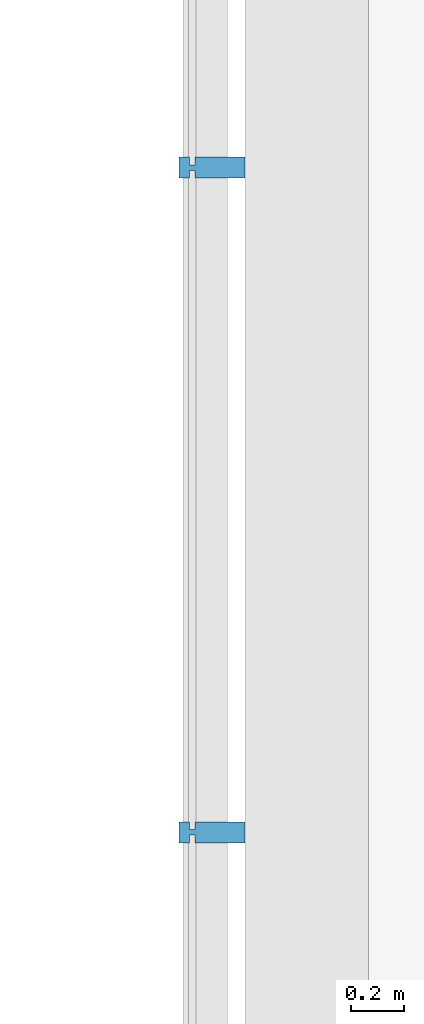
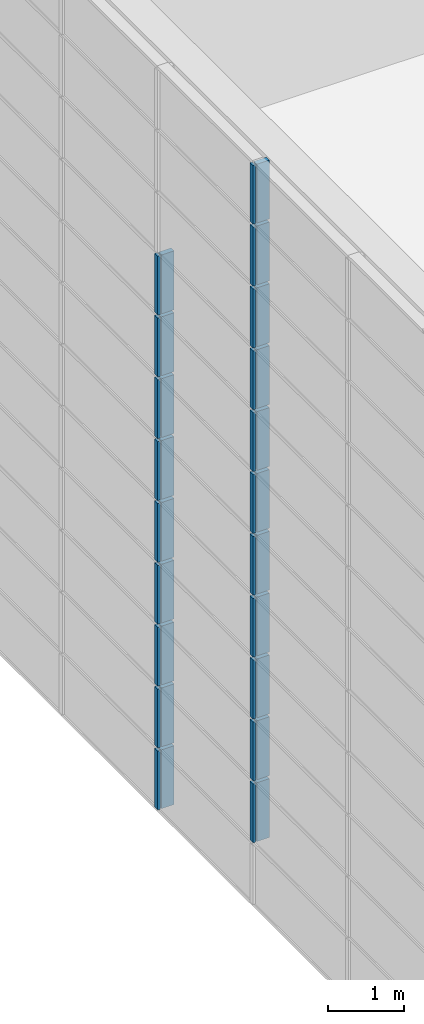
# One storey, part 82 of 105: 20 building element parts, 4 elements without a shape of their own.
"""IFC4 building model written with IfcOpenShell, lengths in millimetres."""

from ifc_helpers import new_model, entity, si_unit, converted_unit, derived_unit, direction, frame, origin_with_axes, place, context, subcontext, project, spatial, triangles, material, element, aggregate, save


model = new_model("IFC4")

# Units and contexts
model_context = context("Model", 3, precision=1e-05, world=origin_with_axes(), true_north=direction((0.0, 1.0)))
body_context = subcontext(model_context, "Body", "Model", "MODEL_VIEW")
ifc_project = project(units=[si_unit("LENGTHUNIT", "METRE", prefix="MILLI"), si_unit("AREAUNIT", "SQUARE_METRE"), si_unit("VOLUMEUNIT", "CUBIC_METRE"), converted_unit("PLANEANGLEUNIT", "DEGREE", entity("IfcLengthMeasure", 0.017453), si_unit("PLANEANGLEUNIT", "RADIAN"), dimensions=[0, 0, 0, 0, 0, 0, 0]), si_unit("SOLIDANGLEUNIT", "STERADIAN"), si_unit("MASSUNIT", "GRAM"), si_unit("TIMEUNIT", "SECOND"), si_unit("THERMODYNAMICTEMPERATUREUNIT", "DEGREE_CELSIUS"), si_unit("LUMINOUSINTENSITYUNIT", "LUMEN"), si_unit("POWERUNIT", "WATT"), derived_unit("THERMALTRANSMITTANCEUNIT", [(si_unit("POWERUNIT", "WATT"), 1), (si_unit("THERMODYNAMICTEMPERATUREUNIT", "KELVIN"), -1), (si_unit("AREAUNIT", "SQUARE_METRE"), -1)])], contexts=[model_context])

# Site, building, storey
site_placement = place(None, origin_with_axes())
site = spatial("IfcSite", under=ifc_project, at=site_placement, Name="Default Site", CompositionType="ELEMENT")
building_placement = place(site_placement, origin_with_axes())
building = spatial("IfcBuilding", under=site, at=building_placement, Name="Default Building", CompositionType="ELEMENT")
storey_placement = place(building_placement, origin_with_axes())
storey = spatial("IfcBuildingStorey", under=building, at=storey_placement, Name="OG - Story", CompositionType="ELEMENT", Elevation=0.0)

# Curtain wall, building element parts
curtain_wall_1_placement = place(storey_placement, origin_with_axes())
curtain_wall_1 = element("IfcCurtainWall", 1, at=curtain_wall_1_placement, inside=storey, Name="Fassade-003", PredefinedType="NOTDEFINED")
ifc_material = material(Name="Blech")
building_element_part_1_placement = place(curtain_wall_1_placement, frame((31551.391327, -51326.104944, 0.0), z_axis=(0.0, 0.0, 1.0), x_axis=(1.0, 0.0, 0.0)))
building_element_part_1 = element("IfcBuildingElementPart", 2, at=building_element_part_1_placement, material=ifc_material, Name="Blech", PredefinedType="NOTDEFINED", context=body_context, shape_type="Tessellation", body=[
    triangles([(200.0, 36591.579, 975.0), (10.0, 36591.579, 975.0), (200.0, 36671.579, 975.0), (10.0, 36621.579, 975.0), (10.0, 36641.579, 975.0), (-9.999, 36621.579, 975.0), (-9.999, 36641.579, 975.0), (-9.999, 36671.579, 975.0), (-9.999, 36591.579, 975.0), (-49.999, 36591.579, 975.0), (-49.999, 36671.579, 975.0), (10.0, 36671.579, 975.0), (10.0, 36641.579, 25.0), (-9.999, 36641.579, 25.0), (-9.999, 36671.579, 25.0), (-49.999, 36671.579, 25.0), (-49.999, 36591.579, 25.0), (-9.999, 36591.579, 25.0), (-9.999, 36621.579, 25.0), (10.0, 36621.579, 25.0), (10.0, 36591.579, 25.0), (200.0, 36591.579, 25.0), (200.0, 36671.579, 25.0), (10.0, 36671.579, 25.0)], [[1, 2, 3], [3, 2, 4], [3, 4, 5], [5, 4, 6], [5, 6, 7], [8, 9, 10], [8, 10, 11], [3, 5, 12], [5, 13, 14], [5, 14, 7], [7, 14, 15], [7, 15, 8], [15, 16, 11], [15, 11, 8], [10, 11, 16], [10, 16, 17], [18, 9, 10], [18, 10, 17], [9, 18, 19], [9, 19, 6], [4, 6, 19], [4, 19, 20], [2, 4, 20], [2, 20, 21], [2, 21, 22], [2, 22, 1], [3, 1, 22], [3, 22, 23], [12, 3, 23], [12, 23, 24], [12, 24, 13], [12, 13, 5], [23, 24, 22], [22, 24, 13], [22, 13, 20], [20, 13, 14], [20, 14, 19], [18, 15, 16], [18, 16, 17], [22, 20, 21]], closed=False),
])
building_element_part_2_placement = place(curtain_wall_1_placement, frame((31551.391327, -51326.104944, 0.0), z_axis=(0.0, 0.0, 1.0), x_axis=(1.0, 0.0, 0.0)))
building_element_part_2 = element("IfcBuildingElementPart", 3, at=building_element_part_2_placement, material=ifc_material, Name="Blech", PredefinedType="NOTDEFINED", context=body_context, shape_type="Tessellation", body=[
    triangles([(200.0, 34065.263, 1975.0), (10.0, 34065.263, 1975.0), (200.0, 34145.263, 1975.0), (10.0, 34095.263, 1975.0), (10.0, 34115.263, 1975.0), (-9.999, 34095.263, 1975.0), (-9.999, 34115.263, 1975.0), (-9.999, 34145.263, 1975.0), (-9.999, 34065.263, 1975.0), (-49.999, 34065.263, 1975.0), (-49.999, 34145.263, 1975.0), (10.0, 34145.263, 1975.0), (10.0, 34115.263, 1025.0), (-9.999, 34115.263, 1025.0), (-9.999, 34145.263, 1025.0), (-49.999, 34145.263, 1025.0), (-49.999, 34065.263, 1025.0), (-9.999, 34065.263, 1025.0), (-9.999, 34095.263, 1025.0), (10.0, 34095.263, 1025.0), (10.0, 34065.263, 1025.0), (200.0, 34065.263, 1025.0), (200.0, 34145.263, 1025.0), (10.0, 34145.263, 1025.0)], [[1, 2, 3], [3, 2, 4], [3, 4, 5], [5, 4, 6], [5, 6, 7], [8, 9, 10], [8, 10, 11], [3, 5, 12], [5, 13, 14], [5, 14, 7], [7, 14, 15], [7, 15, 8], [15, 16, 11], [15, 11, 8], [10, 11, 16], [10, 16, 17], [18, 9, 10], [18, 10, 17], [9, 18, 19], [9, 19, 6], [4, 6, 19], [4, 19, 20], [2, 4, 20], [2, 20, 21], [2, 21, 22], [2, 22, 1], [3, 1, 22], [3, 22, 23], [12, 3, 23], [12, 23, 24], [12, 24, 13], [12, 13, 5], [23, 24, 22], [22, 24, 13], [22, 13, 20], [20, 13, 14], [20, 14, 19], [18, 15, 16], [18, 16, 17], [22, 20, 21]], closed=False),
])
building_element_part_3_placement = place(curtain_wall_1_placement, frame((31551.391327, -51326.104944, 0.0), z_axis=(0.0, 0.0, 1.0), x_axis=(1.0, 0.0, 0.0)))
building_element_part_3 = element("IfcBuildingElementPart", 4, at=building_element_part_3_placement, material=ifc_material, Name="Blech", PredefinedType="NOTDEFINED", context=body_context, shape_type="Tessellation", body=[
    triangles([(200.0, 36591.579, 1975.0), (10.0, 36591.579, 1975.0), (200.0, 36671.579, 1975.0), (10.0, 36621.579, 1975.0), (10.0, 36641.579, 1975.0), (-9.999, 36621.579, 1975.0), (-9.999, 36641.579, 1975.0), (-9.999, 36671.579, 1975.0), (-9.999, 36591.579, 1975.0), (-49.999, 36591.579, 1975.0), (-49.999, 36671.579, 1975.0), (10.0, 36671.579, 1975.0), (10.0, 36641.579, 1025.0), (-9.999, 36641.579, 1025.0), (-9.999, 36671.579, 1025.0), (-49.999, 36671.579, 1025.0), (-49.999, 36591.579, 1025.0), (-9.999, 36591.579, 1025.0), (-9.999, 36621.579, 1025.0), (10.0, 36621.579, 1025.0), (10.0, 36591.579, 1025.0), (200.0, 36591.579, 1025.0), (200.0, 36671.579, 1025.0), (10.0, 36671.579, 1025.0)], [[1, 2, 3], [3, 2, 4], [3, 4, 5], [5, 4, 6], [5, 6, 7], [8, 9, 10], [8, 10, 11], [3, 5, 12], [5, 13, 14], [5, 14, 7], [7, 14, 15], [7, 15, 8], [15, 16, 11], [15, 11, 8], [10, 11, 16], [10, 16, 17], [18, 9, 10], [18, 10, 17], [9, 18, 19], [9, 19, 6], [4, 6, 19], [4, 19, 20], [2, 4, 20], [2, 20, 21], [2, 21, 22], [2, 22, 1], [3, 1, 22], [3, 22, 23], [12, 3, 23], [12, 23, 24], [12, 24, 13], [12, 13, 5], [23, 24, 22], [22, 24, 13], [22, 13, 20], [20, 13, 14], [20, 14, 19], [18, 15, 16], [18, 16, 17], [22, 20, 21]], closed=False),
])
building_element_part_4_placement = place(curtain_wall_1_placement, frame((31551.391327, -51326.104944, 0.0), z_axis=(0.0, 0.0, 1.0), x_axis=(1.0, 0.0, 0.0)))
building_element_part_4 = element("IfcBuildingElementPart", 5, at=building_element_part_4_placement, material=ifc_material, Name="Blech", PredefinedType="NOTDEFINED", context=body_context, shape_type="Tessellation", body=[
    triangles([(200.0, 34065.263, 2975.0), (10.0, 34065.263, 2975.0), (200.0, 34145.263, 2975.0), (10.0, 34095.263, 2975.0), (10.0, 34115.263, 2975.0), (-9.999, 34095.263, 2975.0), (-9.999, 34115.263, 2975.0), (-9.999, 34145.263, 2975.0), (-9.999, 34065.263, 2975.0), (-49.999, 34065.263, 2975.0), (-49.999, 34145.263, 2975.0), (10.0, 34145.263, 2975.0), (10.0, 34115.263, 2025.0), (-9.999, 34115.263, 2025.0), (-9.999, 34145.263, 2025.0), (-49.999, 34145.263, 2025.0), (-49.999, 34065.263, 2025.0), (-9.999, 34065.263, 2025.0), (-9.999, 34095.263, 2025.0), (10.0, 34095.263, 2025.0), (10.0, 34065.263, 2025.0), (200.0, 34065.263, 2025.0), (200.0, 34145.263, 2025.0), (10.0, 34145.263, 2025.0)], [[1, 2, 3], [3, 2, 4], [3, 4, 5], [5, 4, 6], [5, 6, 7], [8, 9, 10], [8, 10, 11], [3, 5, 12], [5, 13, 14], [5, 14, 7], [7, 14, 15], [7, 15, 8], [15, 16, 11], [15, 11, 8], [10, 11, 16], [10, 16, 17], [18, 9, 10], [18, 10, 17], [9, 18, 19], [9, 19, 6], [4, 6, 19], [4, 19, 20], [2, 4, 20], [2, 20, 21], [2, 21, 22], [2, 22, 1], [3, 1, 22], [3, 22, 23], [12, 3, 23], [12, 23, 24], [12, 24, 13], [12, 13, 5], [23, 24, 22], [22, 24, 13], [22, 13, 20], [20, 13, 14], [20, 14, 19], [18, 15, 16], [18, 16, 17], [22, 20, 21]], closed=False),
])
building_element_part_5_placement = place(curtain_wall_1_placement, frame((31551.391327, -51326.104944, 0.0), z_axis=(0.0, 0.0, 1.0), x_axis=(1.0, 0.0, 0.0)))
building_element_part_5 = element("IfcBuildingElementPart", 6, at=building_element_part_5_placement, material=ifc_material, Name="Blech", PredefinedType="NOTDEFINED", context=body_context, shape_type="Tessellation", body=[
    triangles([(200.0, 36591.579, 2975.0), (10.0, 36591.579, 2975.0), (200.0, 36671.579, 2975.0), (10.0, 36621.579, 2975.0), (10.0, 36641.579, 2975.0), (-9.999, 36621.579, 2975.0), (-9.999, 36641.579, 2975.0), (-9.999, 36671.579, 2975.0), (-9.999, 36591.579, 2975.0), (-49.999, 36591.579, 2975.0), (-49.999, 36671.579, 2975.0), (10.0, 36671.579, 2975.0), (10.0, 36641.579, 2025.0), (-9.999, 36641.579, 2025.0), (-9.999, 36671.579, 2025.0), (-49.999, 36671.579, 2025.0), (-49.999, 36591.579, 2025.0), (-9.999, 36591.579, 2025.0), (-9.999, 36621.579, 2025.0), (10.0, 36621.579, 2025.0), (10.0, 36591.579, 2025.0), (200.0, 36591.579, 2025.0), (200.0, 36671.579, 2025.0), (10.0, 36671.579, 2025.0)], [[1, 2, 3], [3, 2, 4], [3, 4, 5], [5, 4, 6], [5, 6, 7], [8, 9, 10], [8, 10, 11], [3, 5, 12], [5, 13, 14], [5, 14, 7], [7, 14, 15], [7, 15, 8], [15, 16, 11], [15, 11, 8], [10, 11, 16], [10, 16, 17], [18, 9, 10], [18, 10, 17], [9, 18, 19], [9, 19, 6], [4, 6, 19], [4, 19, 20], [2, 4, 20], [2, 20, 21], [2, 21, 22], [2, 22, 1], [3, 1, 22], [3, 22, 23], [12, 3, 23], [12, 23, 24], [12, 24, 13], [12, 13, 5], [23, 24, 22], [22, 24, 13], [22, 13, 20], [20, 13, 14], [20, 14, 19], [18, 15, 16], [18, 16, 17], [22, 20, 21]], closed=False),
])
aggregate(curtain_wall_1, [building_element_part_1, building_element_part_2, building_element_part_3, building_element_part_4, building_element_part_5])

curtain_wall_2_placement = place(storey_placement, origin_with_axes())
curtain_wall_2 = element("IfcCurtainWall", 7, at=curtain_wall_2_placement, inside=storey, Name="Fassade-003", PredefinedType="NOTDEFINED")
building_element_part_6_placement = place(curtain_wall_2_placement, frame((31551.391327, -51326.104944, 3000.0), z_axis=(0.0, 0.0, 1.0), x_axis=(1.0, 0.0, 0.0)))
building_element_part_6 = element("IfcBuildingElementPart", 8, at=building_element_part_6_placement, material=ifc_material, Name="Blech", PredefinedType="NOTDEFINED", context=body_context, shape_type="Tessellation", body=[
    triangles([(200.0, 34065.263, 975.0), (10.0, 34065.263, 975.0), (200.0, 34145.263, 975.0), (10.0, 34095.263, 975.0), (10.0, 34115.263, 975.0), (-9.999, 34095.263, 975.0), (-9.999, 34115.263, 975.0), (-9.999, 34145.263, 975.0), (-9.999, 34065.263, 975.0), (-49.999, 34065.263, 975.0), (-49.999, 34145.263, 975.0), (10.0, 34145.263, 975.0), (10.0, 34115.263, 25.0), (-9.999, 34115.263, 25.0), (-9.999, 34145.263, 25.0), (-49.999, 34145.263, 25.0), (-49.999, 34065.263, 25.0), (-9.999, 34065.263, 25.0), (-9.999, 34095.263, 25.0), (10.0, 34095.263, 25.0), (10.0, 34065.263, 25.0), (200.0, 34065.263, 25.0), (200.0, 34145.263, 25.0), (10.0, 34145.263, 25.0)], [[1, 2, 3], [3, 2, 4], [3, 4, 5], [5, 4, 6], [5, 6, 7], [8, 9, 10], [8, 10, 11], [3, 5, 12], [5, 13, 14], [5, 14, 7], [7, 14, 15], [7, 15, 8], [15, 16, 11], [15, 11, 8], [10, 11, 16], [10, 16, 17], [18, 9, 10], [18, 10, 17], [9, 18, 19], [9, 19, 6], [4, 6, 19], [4, 19, 20], [2, 4, 20], [2, 20, 21], [2, 21, 22], [2, 22, 1], [3, 1, 22], [3, 22, 23], [12, 3, 23], [12, 23, 24], [12, 24, 13], [12, 13, 5], [23, 24, 22], [22, 24, 13], [22, 13, 20], [20, 13, 14], [20, 14, 19], [18, 15, 16], [18, 16, 17], [22, 20, 21]], closed=False),
])
building_element_part_7_placement = place(curtain_wall_2_placement, frame((31551.391327, -51326.104944, 3000.0), z_axis=(0.0, 0.0, 1.0), x_axis=(1.0, 0.0, 0.0)))
building_element_part_7 = element("IfcBuildingElementPart", 9, at=building_element_part_7_placement, material=ifc_material, Name="Blech", PredefinedType="NOTDEFINED", context=body_context, shape_type="Tessellation", body=[
    triangles([(200.0, 36591.579, 975.0), (10.0, 36591.579, 975.0), (200.0, 36671.579, 975.0), (10.0, 36621.579, 975.0), (10.0, 36641.579, 975.0), (-9.999, 36621.579, 975.0), (-9.999, 36641.579, 975.0), (-9.999, 36671.579, 975.0), (-9.999, 36591.579, 975.0), (-49.999, 36591.579, 975.0), (-49.999, 36671.579, 975.0), (10.0, 36671.579, 975.0), (10.0, 36641.579, 25.0), (-9.999, 36641.579, 25.0), (-9.999, 36671.579, 25.0), (-49.999, 36671.579, 25.0), (-49.999, 36591.579, 25.0), (-9.999, 36591.579, 25.0), (-9.999, 36621.579, 25.0), (10.0, 36621.579, 25.0), (10.0, 36591.579, 25.0), (200.0, 36591.579, 25.0), (200.0, 36671.579, 25.0), (10.0, 36671.579, 25.0)], [[1, 2, 3], [3, 2, 4], [3, 4, 5], [5, 4, 6], [5, 6, 7], [8, 9, 10], [8, 10, 11], [3, 5, 12], [5, 13, 14], [5, 14, 7], [7, 14, 15], [7, 15, 8], [15, 16, 11], [15, 11, 8], [10, 11, 16], [10, 16, 17], [18, 9, 10], [18, 10, 17], [9, 18, 19], [9, 19, 6], [4, 6, 19], [4, 19, 20], [2, 4, 20], [2, 20, 21], [2, 21, 22], [2, 22, 1], [3, 1, 22], [3, 22, 23], [12, 3, 23], [12, 23, 24], [12, 24, 13], [12, 13, 5], [23, 24, 22], [22, 24, 13], [22, 13, 20], [20, 13, 14], [20, 14, 19], [18, 15, 16], [18, 16, 17], [22, 20, 21]], closed=False),
])
building_element_part_8_placement = place(curtain_wall_2_placement, frame((31551.391327, -51326.104944, 3000.0), z_axis=(0.0, 0.0, 1.0), x_axis=(1.0, 0.0, 0.0)))
building_element_part_8 = element("IfcBuildingElementPart", 10, at=building_element_part_8_placement, material=ifc_material, Name="Blech", PredefinedType="NOTDEFINED", context=body_context, shape_type="Tessellation", body=[
    triangles([(200.0, 34065.263, 1975.0), (10.0, 34065.263, 1975.0), (200.0, 34145.263, 1975.0), (10.0, 34095.263, 1975.0), (10.0, 34115.263, 1975.0), (-9.999, 34095.263, 1975.0), (-9.999, 34115.263, 1975.0), (-9.999, 34145.263, 1975.0), (-9.999, 34065.263, 1975.0), (-49.999, 34065.263, 1975.0), (-49.999, 34145.263, 1975.0), (10.0, 34145.263, 1975.0), (10.0, 34115.263, 1025.0), (-9.999, 34115.263, 1025.0), (-9.999, 34145.263, 1025.0), (-49.999, 34145.263, 1025.0), (-49.999, 34065.263, 1025.0), (-9.999, 34065.263, 1025.0), (-9.999, 34095.263, 1025.0), (10.0, 34095.263, 1025.0), (10.0, 34065.263, 1025.0), (200.0, 34065.263, 1025.0), (200.0, 34145.263, 1025.0), (10.0, 34145.263, 1025.0)], [[1, 2, 3], [3, 2, 4], [3, 4, 5], [5, 4, 6], [5, 6, 7], [8, 9, 10], [8, 10, 11], [3, 5, 12], [5, 13, 14], [5, 14, 7], [7, 14, 15], [7, 15, 8], [15, 16, 11], [15, 11, 8], [10, 11, 16], [10, 16, 17], [18, 9, 10], [18, 10, 17], [9, 18, 19], [9, 19, 6], [4, 6, 19], [4, 19, 20], [2, 4, 20], [2, 20, 21], [2, 21, 22], [2, 22, 1], [3, 1, 22], [3, 22, 23], [12, 3, 23], [12, 23, 24], [12, 24, 13], [12, 13, 5], [23, 24, 22], [22, 24, 13], [22, 13, 20], [20, 13, 14], [20, 14, 19], [18, 15, 16], [18, 16, 17], [22, 20, 21]], closed=False),
])
building_element_part_9_placement = place(curtain_wall_2_placement, frame((31551.391327, -51326.104944, 3000.0), z_axis=(0.0, 0.0, 1.0), x_axis=(1.0, 0.0, 0.0)))
building_element_part_9 = element("IfcBuildingElementPart", 11, at=building_element_part_9_placement, material=ifc_material, Name="Blech", PredefinedType="NOTDEFINED", context=body_context, shape_type="Tessellation", body=[
    triangles([(200.0, 36591.579, 1975.0), (10.0, 36591.579, 1975.0), (200.0, 36671.579, 1975.0), (10.0, 36621.579, 1975.0), (10.0, 36641.579, 1975.0), (-9.999, 36621.579, 1975.0), (-9.999, 36641.579, 1975.0), (-9.999, 36671.579, 1975.0), (-9.999, 36591.579, 1975.0), (-49.999, 36591.579, 1975.0), (-49.999, 36671.579, 1975.0), (10.0, 36671.579, 1975.0), (10.0, 36641.579, 1025.0), (-9.999, 36641.579, 1025.0), (-9.999, 36671.579, 1025.0), (-49.999, 36671.579, 1025.0), (-49.999, 36591.579, 1025.0), (-9.999, 36591.579, 1025.0), (-9.999, 36621.579, 1025.0), (10.0, 36621.579, 1025.0), (10.0, 36591.579, 1025.0), (200.0, 36591.579, 1025.0), (200.0, 36671.579, 1025.0), (10.0, 36671.579, 1025.0)], [[1, 2, 3], [3, 2, 4], [3, 4, 5], [5, 4, 6], [5, 6, 7], [8, 9, 10], [8, 10, 11], [3, 5, 12], [5, 13, 14], [5, 14, 7], [7, 14, 15], [7, 15, 8], [15, 16, 11], [15, 11, 8], [10, 11, 16], [10, 16, 17], [18, 9, 10], [18, 10, 17], [9, 18, 19], [9, 19, 6], [4, 6, 19], [4, 19, 20], [2, 4, 20], [2, 20, 21], [2, 21, 22], [2, 22, 1], [3, 1, 22], [3, 22, 23], [12, 3, 23], [12, 23, 24], [12, 24, 13], [12, 13, 5], [23, 24, 22], [22, 24, 13], [22, 13, 20], [20, 13, 14], [20, 14, 19], [18, 15, 16], [18, 16, 17], [22, 20, 21]], closed=False),
])
building_element_part_10_placement = place(curtain_wall_2_placement, frame((31551.391327, -51326.104944, 3000.0), z_axis=(0.0, 0.0, 1.0), x_axis=(1.0, 0.0, 0.0)))
building_element_part_10 = element("IfcBuildingElementPart", 12, at=building_element_part_10_placement, material=ifc_material, Name="Blech", PredefinedType="NOTDEFINED", context=body_context, shape_type="Tessellation", body=[
    triangles([(200.0, 34065.263, 2975.0), (10.0, 34065.263, 2975.0), (200.0, 34145.263, 2975.0), (10.0, 34095.263, 2975.0), (10.0, 34115.263, 2975.0), (-9.999, 34095.263, 2975.0), (-9.999, 34115.263, 2975.0), (-9.999, 34145.263, 2975.0), (-9.999, 34065.263, 2975.0), (-49.999, 34065.263, 2975.0), (-49.999, 34145.263, 2975.0), (10.0, 34145.263, 2975.0), (10.0, 34115.263, 2025.0), (-9.999, 34115.263, 2025.0), (-9.999, 34145.263, 2025.0), (-49.999, 34145.263, 2025.0), (-49.999, 34065.263, 2025.0), (-9.999, 34065.263, 2025.0), (-9.999, 34095.263, 2025.0), (10.0, 34095.263, 2025.0), (10.0, 34065.263, 2025.0), (200.0, 34065.263, 2025.0), (200.0, 34145.263, 2025.0), (10.0, 34145.263, 2025.0)], [[1, 2, 3], [3, 2, 4], [3, 4, 5], [5, 4, 6], [5, 6, 7], [8, 9, 10], [8, 10, 11], [3, 5, 12], [5, 13, 14], [5, 14, 7], [7, 14, 15], [7, 15, 8], [15, 16, 11], [15, 11, 8], [10, 11, 16], [10, 16, 17], [18, 9, 10], [18, 10, 17], [9, 18, 19], [9, 19, 6], [4, 6, 19], [4, 19, 20], [2, 4, 20], [2, 20, 21], [2, 21, 22], [2, 22, 1], [3, 1, 22], [3, 22, 23], [12, 3, 23], [12, 23, 24], [12, 24, 13], [12, 13, 5], [23, 24, 22], [22, 24, 13], [22, 13, 20], [20, 13, 14], [20, 14, 19], [18, 15, 16], [18, 16, 17], [22, 20, 21]], closed=False),
])
building_element_part_11_placement = place(curtain_wall_2_placement, frame((31551.391327, -51326.104944, 3000.0), z_axis=(0.0, 0.0, 1.0), x_axis=(1.0, 0.0, 0.0)))
building_element_part_11 = element("IfcBuildingElementPart", 13, at=building_element_part_11_placement, material=ifc_material, Name="Blech", PredefinedType="NOTDEFINED", context=body_context, shape_type="Tessellation", body=[
    triangles([(200.0, 36591.579, 2975.0), (10.0, 36591.579, 2975.0), (200.0, 36671.579, 2975.0), (10.0, 36621.579, 2975.0), (10.0, 36641.579, 2975.0), (-9.999, 36621.579, 2975.0), (-9.999, 36641.579, 2975.0), (-9.999, 36671.579, 2975.0), (-9.999, 36591.579, 2975.0), (-49.999, 36591.579, 2975.0), (-49.999, 36671.579, 2975.0), (10.0, 36671.579, 2975.0), (10.0, 36641.579, 2025.0), (-9.999, 36641.579, 2025.0), (-9.999, 36671.579, 2025.0), (-49.999, 36671.579, 2025.0), (-49.999, 36591.579, 2025.0), (-9.999, 36591.579, 2025.0), (-9.999, 36621.579, 2025.0), (10.0, 36621.579, 2025.0), (10.0, 36591.579, 2025.0), (200.0, 36591.579, 2025.0), (200.0, 36671.579, 2025.0), (10.0, 36671.579, 2025.0)], [[1, 2, 3], [3, 2, 4], [3, 4, 5], [5, 4, 6], [5, 6, 7], [8, 9, 10], [8, 10, 11], [3, 5, 12], [5, 13, 14], [5, 14, 7], [7, 14, 15], [7, 15, 8], [15, 16, 11], [15, 11, 8], [10, 11, 16], [10, 16, 17], [18, 9, 10], [18, 10, 17], [9, 18, 19], [9, 19, 6], [4, 6, 19], [4, 19, 20], [2, 4, 20], [2, 20, 21], [2, 21, 22], [2, 22, 1], [3, 1, 22], [3, 22, 23], [12, 3, 23], [12, 23, 24], [12, 24, 13], [12, 13, 5], [23, 24, 22], [22, 24, 13], [22, 13, 20], [20, 13, 14], [20, 14, 19], [18, 15, 16], [18, 16, 17], [22, 20, 21]], closed=False),
])
aggregate(curtain_wall_2, [building_element_part_6, building_element_part_7, building_element_part_8, building_element_part_9, building_element_part_10, building_element_part_11])

curtain_wall_3_placement = place(storey_placement, origin_with_axes())
curtain_wall_3 = element("IfcCurtainWall", 14, at=curtain_wall_3_placement, inside=storey, Name="Fassade-003", PredefinedType="NOTDEFINED")
building_element_part_12_placement = place(curtain_wall_3_placement, frame((31551.391327, -51326.104944, 6000.0), z_axis=(0.0, 0.0, 1.0), x_axis=(1.0, 0.0, 0.0)))
building_element_part_12 = element("IfcBuildingElementPart", 15, at=building_element_part_12_placement, material=ifc_material, Name="Blech", PredefinedType="NOTDEFINED", context=body_context, shape_type="Tessellation", body=[
    triangles([(200.0, 34065.263, 975.0), (10.0, 34065.263, 975.0), (200.0, 34145.263, 975.0), (10.0, 34095.263, 975.0), (10.0, 34115.263, 975.0), (-9.999, 34095.263, 975.0), (-9.999, 34115.263, 975.0), (-9.999, 34145.263, 975.0), (-9.999, 34065.263, 975.0), (-49.999, 34065.263, 975.0), (-49.999, 34145.263, 975.0), (10.0, 34145.263, 975.0), (10.0, 34115.263, 25.0), (-9.999, 34115.263, 25.0), (-9.999, 34145.263, 25.0), (-49.999, 34145.263, 25.0), (-49.999, 34065.263, 25.0), (-9.999, 34065.263, 25.0), (-9.999, 34095.263, 25.0), (10.0, 34095.263, 25.0), (10.0, 34065.263, 25.0), (200.0, 34065.263, 25.0), (200.0, 34145.263, 25.0), (10.0, 34145.263, 25.0)], [[1, 2, 3], [3, 2, 4], [3, 4, 5], [5, 4, 6], [5, 6, 7], [8, 9, 10], [8, 10, 11], [3, 5, 12], [5, 13, 14], [5, 14, 7], [7, 14, 15], [7, 15, 8], [15, 16, 11], [15, 11, 8], [10, 11, 16], [10, 16, 17], [18, 9, 10], [18, 10, 17], [9, 18, 19], [9, 19, 6], [4, 6, 19], [4, 19, 20], [2, 4, 20], [2, 20, 21], [2, 21, 22], [2, 22, 1], [3, 1, 22], [3, 22, 23], [12, 3, 23], [12, 23, 24], [12, 24, 13], [12, 13, 5], [23, 24, 22], [22, 24, 13], [22, 13, 20], [20, 13, 14], [20, 14, 19], [18, 15, 16], [18, 16, 17], [22, 20, 21]], closed=False),
])
building_element_part_13_placement = place(curtain_wall_3_placement, frame((31551.391327, -51326.104944, 6000.0), z_axis=(0.0, 0.0, 1.0), x_axis=(1.0, 0.0, 0.0)))
building_element_part_13 = element("IfcBuildingElementPart", 16, at=building_element_part_13_placement, material=ifc_material, Name="Blech", PredefinedType="NOTDEFINED", context=body_context, shape_type="Tessellation", body=[
    triangles([(200.0, 36591.579, 975.0), (10.0, 36591.579, 975.0), (200.0, 36671.579, 975.0), (10.0, 36621.579, 975.0), (10.0, 36641.579, 975.0), (-9.999, 36621.579, 975.0), (-9.999, 36641.579, 975.0), (-9.999, 36671.579, 975.0), (-9.999, 36591.579, 975.0), (-49.999, 36591.579, 975.0), (-49.999, 36671.579, 975.0), (10.0, 36671.579, 975.0), (10.0, 36641.579, 25.0), (-9.999, 36641.579, 25.0), (-9.999, 36671.579, 25.0), (-49.999, 36671.579, 25.0), (-49.999, 36591.579, 25.0), (-9.999, 36591.579, 25.0), (-9.999, 36621.579, 25.0), (10.0, 36621.579, 25.0), (10.0, 36591.579, 25.0), (200.0, 36591.579, 25.0), (200.0, 36671.579, 25.0), (10.0, 36671.579, 25.0)], [[1, 2, 3], [3, 2, 4], [3, 4, 5], [5, 4, 6], [5, 6, 7], [8, 9, 10], [8, 10, 11], [3, 5, 12], [5, 13, 14], [5, 14, 7], [7, 14, 15], [7, 15, 8], [15, 16, 11], [15, 11, 8], [10, 11, 16], [10, 16, 17], [18, 9, 10], [18, 10, 17], [9, 18, 19], [9, 19, 6], [4, 6, 19], [4, 19, 20], [2, 4, 20], [2, 20, 21], [2, 21, 22], [2, 22, 1], [3, 1, 22], [3, 22, 23], [12, 3, 23], [12, 23, 24], [12, 24, 13], [12, 13, 5], [23, 24, 22], [22, 24, 13], [22, 13, 20], [20, 13, 14], [20, 14, 19], [18, 15, 16], [18, 16, 17], [22, 20, 21]], closed=False),
])
building_element_part_14_placement = place(curtain_wall_3_placement, frame((31551.391327, -51326.104944, 6000.0), z_axis=(0.0, 0.0, 1.0), x_axis=(1.0, 0.0, 0.0)))
building_element_part_14 = element("IfcBuildingElementPart", 17, at=building_element_part_14_placement, material=ifc_material, Name="Blech", PredefinedType="NOTDEFINED", context=body_context, shape_type="Tessellation", body=[
    triangles([(200.0, 34065.263, 1975.0), (10.0, 34065.263, 1975.0), (200.0, 34145.263, 1975.0), (10.0, 34095.263, 1975.0), (10.0, 34115.263, 1975.0), (-9.999, 34095.263, 1975.0), (-9.999, 34115.263, 1975.0), (-9.999, 34145.263, 1975.0), (-9.999, 34065.263, 1975.0), (-49.999, 34065.263, 1975.0), (-49.999, 34145.263, 1975.0), (10.0, 34145.263, 1975.0), (10.0, 34115.263, 1025.0), (-9.999, 34115.263, 1025.0), (-9.999, 34145.263, 1025.0), (-49.999, 34145.263, 1025.0), (-49.999, 34065.263, 1025.0), (-9.999, 34065.263, 1025.0), (-9.999, 34095.263, 1025.0), (10.0, 34095.263, 1025.0), (10.0, 34065.263, 1025.0), (200.0, 34065.263, 1025.0), (200.0, 34145.263, 1025.0), (10.0, 34145.263, 1025.0)], [[1, 2, 3], [3, 2, 4], [3, 4, 5], [5, 4, 6], [5, 6, 7], [8, 9, 10], [8, 10, 11], [3, 5, 12], [5, 13, 14], [5, 14, 7], [7, 14, 15], [7, 15, 8], [15, 16, 11], [15, 11, 8], [10, 11, 16], [10, 16, 17], [18, 9, 10], [18, 10, 17], [9, 18, 19], [9, 19, 6], [4, 6, 19], [4, 19, 20], [2, 4, 20], [2, 20, 21], [2, 21, 22], [2, 22, 1], [3, 1, 22], [3, 22, 23], [12, 3, 23], [12, 23, 24], [12, 24, 13], [12, 13, 5], [23, 24, 22], [22, 24, 13], [22, 13, 20], [20, 13, 14], [20, 14, 19], [18, 15, 16], [18, 16, 17], [22, 20, 21]], closed=False),
])
building_element_part_15_placement = place(curtain_wall_3_placement, frame((31551.391327, -51326.104944, 6000.0), z_axis=(0.0, 0.0, 1.0), x_axis=(1.0, 0.0, 0.0)))
building_element_part_15 = element("IfcBuildingElementPart", 18, at=building_element_part_15_placement, material=ifc_material, Name="Blech", PredefinedType="NOTDEFINED", context=body_context, shape_type="Tessellation", body=[
    triangles([(200.0, 36591.579, 1975.0), (10.0, 36591.579, 1975.0), (200.0, 36671.579, 1975.0), (10.0, 36621.579, 1975.0), (10.0, 36641.579, 1975.0), (-9.999, 36621.579, 1975.0), (-9.999, 36641.579, 1975.0), (-9.999, 36671.579, 1975.0), (-9.999, 36591.579, 1975.0), (-49.999, 36591.579, 1975.0), (-49.999, 36671.579, 1975.0), (10.0, 36671.579, 1975.0), (10.0, 36641.579, 1025.0), (-9.999, 36641.579, 1025.0), (-9.999, 36671.579, 1025.0), (-49.999, 36671.579, 1025.0), (-49.999, 36591.579, 1025.0), (-9.999, 36591.579, 1025.0), (-9.999, 36621.579, 1025.0), (10.0, 36621.579, 1025.0), (10.0, 36591.579, 1025.0), (200.0, 36591.579, 1025.0), (200.0, 36671.579, 1025.0), (10.0, 36671.579, 1025.0)], [[1, 2, 3], [3, 2, 4], [3, 4, 5], [5, 4, 6], [5, 6, 7], [8, 9, 10], [8, 10, 11], [3, 5, 12], [5, 13, 14], [5, 14, 7], [7, 14, 15], [7, 15, 8], [15, 16, 11], [15, 11, 8], [10, 11, 16], [10, 16, 17], [18, 9, 10], [18, 10, 17], [9, 18, 19], [9, 19, 6], [4, 6, 19], [4, 19, 20], [2, 4, 20], [2, 20, 21], [2, 21, 22], [2, 22, 1], [3, 1, 22], [3, 22, 23], [12, 3, 23], [12, 23, 24], [12, 24, 13], [12, 13, 5], [23, 24, 22], [22, 24, 13], [22, 13, 20], [20, 13, 14], [20, 14, 19], [18, 15, 16], [18, 16, 17], [22, 20, 21]], closed=False),
])
building_element_part_16_placement = place(curtain_wall_3_placement, frame((31551.391327, -51326.104944, 6000.0), z_axis=(0.0, 0.0, 1.0), x_axis=(1.0, 0.0, 0.0)))
building_element_part_16 = element("IfcBuildingElementPart", 19, at=building_element_part_16_placement, material=ifc_material, Name="Blech", PredefinedType="NOTDEFINED", context=body_context, shape_type="Tessellation", body=[
    triangles([(200.0, 34065.263, 2975.0), (10.0, 34065.263, 2975.0), (200.0, 34145.263, 2975.0), (10.0, 34095.263, 2975.0), (10.0, 34115.263, 2975.0), (-9.999, 34095.263, 2975.0), (-9.999, 34115.263, 2975.0), (-9.999, 34145.263, 2975.0), (-9.999, 34065.263, 2975.0), (-49.999, 34065.263, 2975.0), (-49.999, 34145.263, 2975.0), (10.0, 34145.263, 2975.0), (10.0, 34115.263, 2025.0), (-9.999, 34115.263, 2025.0), (-9.999, 34145.263, 2025.0), (-49.999, 34145.263, 2025.0), (-49.999, 34065.263, 2025.0), (-9.999, 34065.263, 2025.0), (-9.999, 34095.263, 2025.0), (10.0, 34095.263, 2025.0), (10.0, 34065.263, 2025.0), (200.0, 34065.263, 2025.0), (200.0, 34145.263, 2025.0), (10.0, 34145.263, 2025.0)], [[1, 2, 3], [3, 2, 4], [3, 4, 5], [5, 4, 6], [5, 6, 7], [8, 9, 10], [8, 10, 11], [3, 5, 12], [5, 13, 14], [5, 14, 7], [7, 14, 15], [7, 15, 8], [15, 16, 11], [15, 11, 8], [10, 11, 16], [10, 16, 17], [18, 9, 10], [18, 10, 17], [9, 18, 19], [9, 19, 6], [4, 6, 19], [4, 19, 20], [2, 4, 20], [2, 20, 21], [2, 21, 22], [2, 22, 1], [3, 1, 22], [3, 22, 23], [12, 3, 23], [12, 23, 24], [12, 24, 13], [12, 13, 5], [23, 24, 22], [22, 24, 13], [22, 13, 20], [20, 13, 14], [20, 14, 19], [18, 15, 16], [18, 16, 17], [22, 20, 21]], closed=False),
])
building_element_part_17_placement = place(curtain_wall_3_placement, frame((31551.391327, -51326.104944, 6000.0), z_axis=(0.0, 0.0, 1.0), x_axis=(1.0, 0.0, 0.0)))
building_element_part_17 = element("IfcBuildingElementPart", 20, at=building_element_part_17_placement, material=ifc_material, Name="Blech", PredefinedType="NOTDEFINED", context=body_context, shape_type="Tessellation", body=[
    triangles([(200.0, 36591.579, 2975.0), (10.0, 36591.579, 2975.0), (200.0, 36671.579, 2975.0), (10.0, 36621.579, 2975.0), (10.0, 36641.579, 2975.0), (-9.999, 36621.579, 2975.0), (-9.999, 36641.579, 2975.0), (-9.999, 36671.579, 2975.0), (-9.999, 36591.579, 2975.0), (-49.999, 36591.579, 2975.0), (-49.999, 36671.579, 2975.0), (10.0, 36671.579, 2975.0), (10.0, 36641.579, 2025.0), (-9.999, 36641.579, 2025.0), (-9.999, 36671.579, 2025.0), (-49.999, 36671.579, 2025.0), (-49.999, 36591.579, 2025.0), (-9.999, 36591.579, 2025.0), (-9.999, 36621.579, 2025.0), (10.0, 36621.579, 2025.0), (10.0, 36591.579, 2025.0), (200.0, 36591.579, 2025.0), (200.0, 36671.579, 2025.0), (10.0, 36671.579, 2025.0)], [[1, 2, 3], [3, 2, 4], [3, 4, 5], [5, 4, 6], [5, 6, 7], [8, 9, 10], [8, 10, 11], [3, 5, 12], [5, 13, 14], [5, 14, 7], [7, 14, 15], [7, 15, 8], [15, 16, 11], [15, 11, 8], [10, 11, 16], [10, 16, 17], [18, 9, 10], [18, 10, 17], [9, 18, 19], [9, 19, 6], [4, 6, 19], [4, 19, 20], [2, 4, 20], [2, 20, 21], [2, 21, 22], [2, 22, 1], [3, 1, 22], [3, 22, 23], [12, 3, 23], [12, 23, 24], [12, 24, 13], [12, 13, 5], [23, 24, 22], [22, 24, 13], [22, 13, 20], [20, 13, 14], [20, 14, 19], [18, 15, 16], [18, 16, 17], [22, 20, 21]], closed=False),
])
aggregate(curtain_wall_3, [building_element_part_12, building_element_part_13, building_element_part_14, building_element_part_15, building_element_part_16, building_element_part_17])

curtain_wall_4_placement = place(storey_placement, origin_with_axes())
curtain_wall_4 = element("IfcCurtainWall", 21, at=curtain_wall_4_placement, inside=storey, Name="Fassade-003", PredefinedType="NOTDEFINED")
building_element_part_18_placement = place(curtain_wall_4_placement, frame((31551.391327, -51326.104944, 9000.0), z_axis=(0.0, 0.0, 1.0), x_axis=(1.0, 0.0, 0.0)))
building_element_part_18 = element("IfcBuildingElementPart", 22, at=building_element_part_18_placement, material=ifc_material, Name="Blech", PredefinedType="NOTDEFINED", context=body_context, shape_type="Tessellation", body=[
    triangles([(200.0, 34065.263, 975.0), (10.0, 34065.263, 975.0), (200.0, 34145.263, 975.0), (10.0, 34095.263, 975.0), (10.0, 34115.263, 975.0), (-9.999, 34095.263, 975.0), (-9.999, 34115.263, 975.0), (-9.999, 34145.263, 975.0), (-9.999, 34065.263, 975.0), (-49.999, 34065.263, 975.0), (-49.999, 34145.263, 975.0), (10.0, 34145.263, 975.0), (10.0, 34115.263, 25.0), (-9.999, 34115.263, 25.0), (-9.999, 34145.263, 25.0), (-49.999, 34145.263, 25.0), (-49.999, 34065.263, 25.0), (-9.999, 34065.263, 25.0), (-9.999, 34095.263, 25.0), (10.0, 34095.263, 25.0), (10.0, 34065.263, 25.0), (200.0, 34065.263, 25.0), (200.0, 34145.263, 25.0), (10.0, 34145.263, 25.0)], [[1, 2, 3], [3, 2, 4], [3, 4, 5], [5, 4, 6], [5, 6, 7], [8, 9, 10], [8, 10, 11], [3, 5, 12], [5, 13, 14], [5, 14, 7], [7, 14, 15], [7, 15, 8], [15, 16, 11], [15, 11, 8], [10, 11, 16], [10, 16, 17], [18, 9, 10], [18, 10, 17], [9, 18, 19], [9, 19, 6], [4, 6, 19], [4, 19, 20], [2, 4, 20], [2, 20, 21], [2, 21, 22], [2, 22, 1], [3, 1, 22], [3, 22, 23], [12, 3, 23], [12, 23, 24], [12, 24, 13], [12, 13, 5], [23, 24, 22], [22, 24, 13], [22, 13, 20], [20, 13, 14], [20, 14, 19], [18, 15, 16], [18, 16, 17], [22, 20, 21]], closed=False),
])
building_element_part_19_placement = place(curtain_wall_4_placement, frame((31551.391327, -51326.104944, 9000.0), z_axis=(0.0, 0.0, 1.0), x_axis=(1.0, 0.0, 0.0)))
building_element_part_19 = element("IfcBuildingElementPart", 23, at=building_element_part_19_placement, material=ifc_material, Name="Blech", PredefinedType="NOTDEFINED", context=body_context, shape_type="Tessellation", body=[
    triangles([(200.0, 34065.263, 1975.0), (10.0, 34065.263, 1975.0), (200.0, 34145.263, 1975.0), (10.0, 34095.263, 1975.0), (10.0, 34115.263, 1975.0), (-9.999, 34095.263, 1975.0), (-9.999, 34115.263, 1975.0), (-9.999, 34145.263, 1975.0), (-9.999, 34065.263, 1975.0), (-49.999, 34065.263, 1975.0), (-49.999, 34145.263, 1975.0), (10.0, 34145.263, 1975.0), (10.0, 34115.263, 1025.0), (-9.999, 34115.263, 1025.0), (-9.999, 34145.263, 1025.0), (-49.999, 34145.263, 1025.0), (-49.999, 34065.263, 1025.0), (-9.999, 34065.263, 1025.0), (-9.999, 34095.263, 1025.0), (10.0, 34095.263, 1025.0), (10.0, 34065.263, 1025.0), (200.0, 34065.263, 1025.0), (200.0, 34145.263, 1025.0), (10.0, 34145.263, 1025.0)], [[1, 2, 3], [3, 2, 4], [3, 4, 5], [5, 4, 6], [5, 6, 7], [8, 9, 10], [8, 10, 11], [3, 5, 12], [5, 13, 14], [5, 14, 7], [7, 14, 15], [7, 15, 8], [15, 16, 11], [15, 11, 8], [10, 11, 16], [10, 16, 17], [18, 9, 10], [18, 10, 17], [9, 18, 19], [9, 19, 6], [4, 6, 19], [4, 19, 20], [2, 4, 20], [2, 20, 21], [2, 21, 22], [2, 22, 1], [3, 1, 22], [3, 22, 23], [12, 3, 23], [12, 23, 24], [12, 24, 13], [12, 13, 5], [23, 24, 22], [22, 24, 13], [22, 13, 20], [20, 13, 14], [20, 14, 19], [18, 15, 16], [18, 16, 17], [22, 20, 21]], closed=False),
])
building_element_part_20_placement = place(curtain_wall_4_placement, frame((31551.391327, -51326.104944, 9000.0), z_axis=(0.0, 0.0, 1.0), x_axis=(1.0, 0.0, 0.0)))
building_element_part_20 = element("IfcBuildingElementPart", 24, at=building_element_part_20_placement, material=ifc_material, Name="Blech", PredefinedType="NOTDEFINED", context=body_context, shape_type="Tessellation", body=[
    triangles([(200.0, 34065.263, 2975.0), (10.0, 34065.263, 2975.0), (200.0, 34145.263, 2975.0), (10.0, 34095.263, 2975.0), (10.0, 34115.263, 2975.0), (-9.999, 34095.263, 2975.0), (-9.999, 34115.263, 2975.0), (-9.999, 34145.263, 2975.0), (-9.999, 34065.263, 2975.0), (-49.999, 34065.263, 2975.0), (-49.999, 34145.263, 2975.0), (10.0, 34145.263, 2975.0), (10.0, 34115.263, 2025.0), (-9.999, 34115.263, 2025.0), (-9.999, 34145.263, 2025.0), (-49.999, 34145.263, 2025.0), (-49.999, 34065.263, 2025.0), (-9.999, 34065.263, 2025.0), (-9.999, 34095.263, 2025.0), (10.0, 34095.263, 2025.0), (10.0, 34065.263, 2025.0), (200.0, 34065.263, 2025.0), (200.0, 34145.263, 2025.0), (10.0, 34145.263, 2025.0)], [[1, 2, 3], [3, 2, 4], [3, 4, 5], [5, 4, 6], [5, 6, 7], [8, 9, 10], [8, 10, 11], [3, 5, 12], [5, 13, 14], [5, 14, 7], [7, 14, 15], [7, 15, 8], [15, 16, 11], [15, 11, 8], [10, 11, 16], [10, 16, 17], [18, 9, 10], [18, 10, 17], [9, 18, 19], [9, 19, 6], [4, 6, 19], [4, 19, 20], [2, 4, 20], [2, 20, 21], [2, 21, 22], [2, 22, 1], [3, 1, 22], [3, 22, 23], [12, 3, 23], [12, 23, 24], [12, 24, 13], [12, 13, 5], [23, 24, 22], [22, 24, 13], [22, 13, 20], [20, 13, 14], [20, 14, 19], [18, 15, 16], [18, 16, 17], [22, 20, 21]], closed=False),
])
aggregate(curtain_wall_4, [building_element_part_18, building_element_part_19, building_element_part_20])

save(model, "model.ifc")
